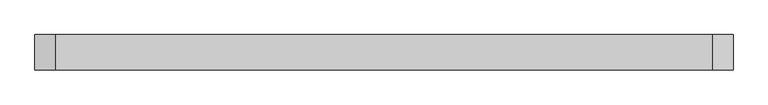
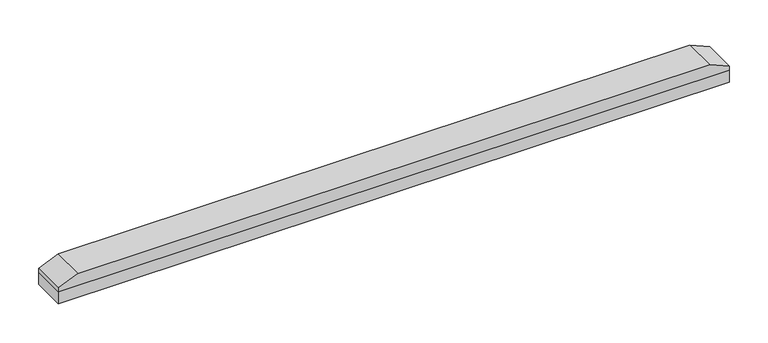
"""IFC4 building model written with IfcOpenShell, lengths in millimetres: proxy geometry, Spinneybeck_ARO Plank 8 : C - 3’-3 1/2” x 2” x 3/4”."""

from ifc_helpers import new_model, si_unit, frame, origin, origin_with_axes, place, context, project, spatial, polyline, outline, extrude, source, transform, mapped, element, save


def specialty_equipment_a95d78fa(model_context):
    return source(origin(), model_context, "Body", "SweptSolid", [
        extrude(outline(polyline([(19.05, -501.65), (19.05, 501.65), (25.4, 501.65), (38.1, 472.0166667), (38.1, -472.0166667), (25.4, -501.65), (19.05, -501.65)])), frame((0.0, -25.4, 0.0), z_axis=(0.0, 1.0, 0.0), x_axis=(0.0, 0.0, 1.0)), (0.0, 0.0, 1.0), 50.8),
        extrude(outline(polyline([(-501.65, -25.4), (-501.65, 25.4), (501.65, 25.4), (501.65, -25.4), (-501.65, -25.4)])), origin_with_axes(), (0.0, 0.0, 1.0), 19.05),
    ])


if __name__ == "__main__":
    model = new_model("IFC4")
    model_context = context("Model", 3, world=origin())
    ifc_project = project(units=[si_unit("LENGTHUNIT", "METRE", prefix="MILLI")], contexts=[model_context])
    site = spatial("IfcSite", under=ifc_project)
    building = spatial("IfcBuilding", under=site)
    placement = place(None, origin())
    specialty_equipment_shape = specialty_equipment_a95d78fa(model_context)
    element("IfcBuildingElementProxy", 1, Name="Spinneybeck_ARO Plank 8 : C - 3’-3 1/2” x 2” x 3/4”", ObjectType="Spinneybeck_ARO Plank 8 : C - 3’-3 1/2” x 2” x 3/4”", at=placement, inside=building, context=model_context, shape_type="MappedRepresentation", body=[
        mapped(specialty_equipment_shape, transform((0.0, 0.0, 0.0), x_axis=(1.0, 0.0, 0.0), y_axis=(0.0, 1.0, 0.0), z_axis=(0.0, 0.0, 1.0))),
    ])
    save(model, "model.ifc")
